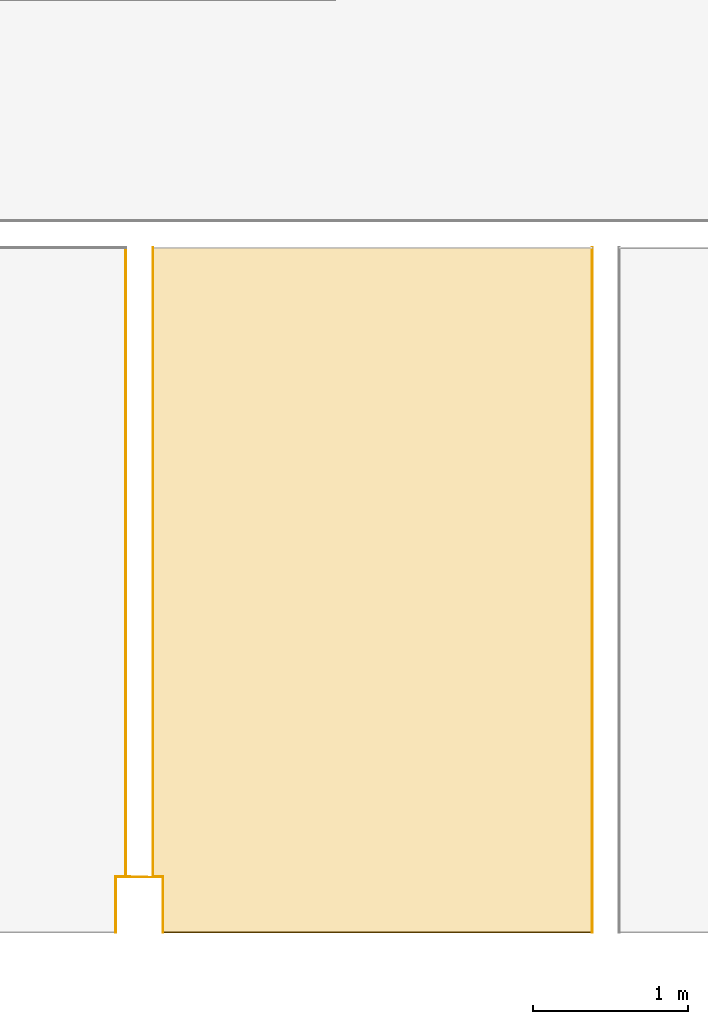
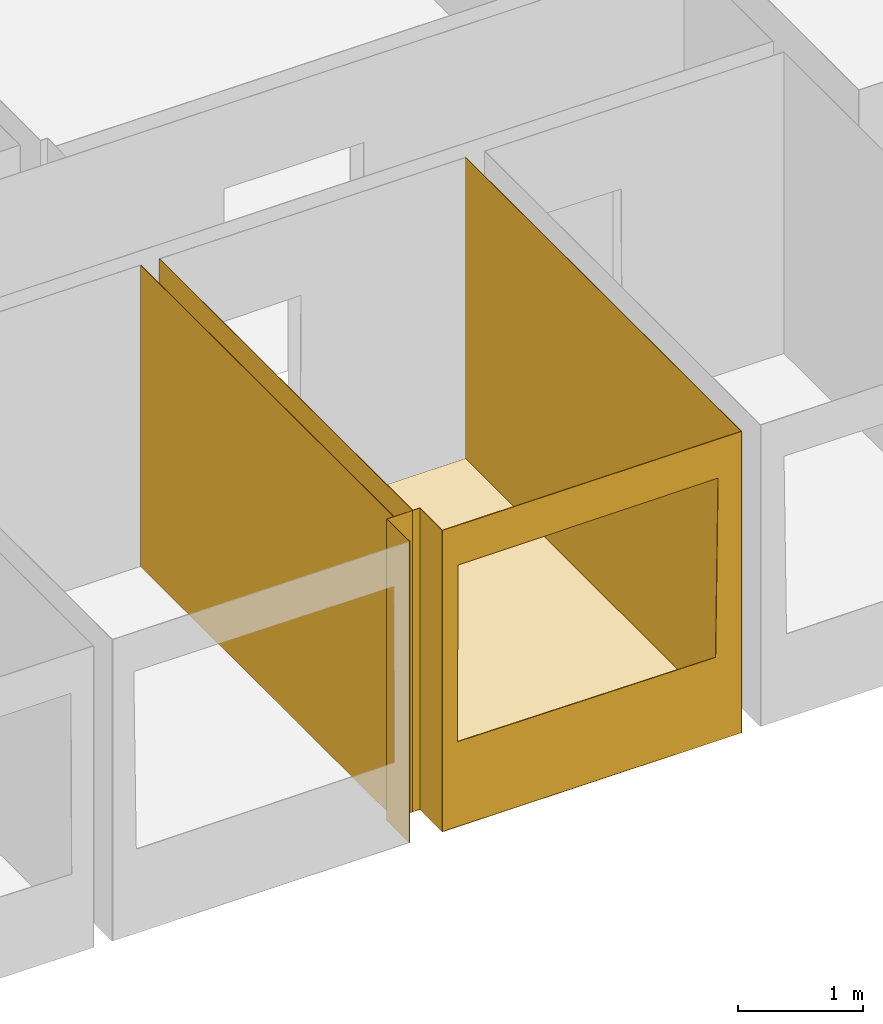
# One storey, part 16 of 33: 9 coverings, 1 opening.
"""IFC2X3 building model written with IfcOpenShell, lengths in millimetres."""

from ifc_helpers import new_model, entity, si_unit, converted_unit, derived_unit, money_unit, direction, frame, origin_with_axes, place, context, subcontext, project, spatial, polyline, outline, extrude, material, type_object, element, save


model = new_model("IFC2X3")

# Units and contexts
model_context = context("Model", 3, precision=0.01, world=origin_with_axes(), true_north=direction((0.0, 1.0)))
body_context = subcontext(model_context, "Body", "Model", "MODEL_VIEW")
ifc_project = project(units=[si_unit("LENGTHUNIT", "METRE", prefix="MILLI"), si_unit("AREAUNIT", "SQUARE_METRE"), si_unit("VOLUMEUNIT", "CUBIC_METRE"), converted_unit("PLANEANGLEUNIT", "DEGREE", entity("IfcPlaneAngleMeasure", 0.0174532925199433), si_unit("PLANEANGLEUNIT", "RADIAN"), dimensions=[0, 0, 0, 0, 0, 0, 0]), money_unit("EUR"), converted_unit("TIMEUNIT", "Year", entity("IfcTimeMeasure", 31556926.0), si_unit("TIMEUNIT", "SECOND"), dimensions=[0, 0, 1, 0, 0, 0, 0]), si_unit("MASSUNIT", "GRAM", prefix="KILO"), si_unit("THERMODYNAMICTEMPERATUREUNIT", "DEGREE_CELSIUS"), si_unit("LUMINOUSINTENSITYUNIT", "LUMEN"), si_unit("ENERGYUNIT", "JOULE", prefix="MEGA"), derived_unit("THERMALCONDUCTANCEUNIT", [(si_unit("POWERUNIT", "WATT"), 1), (si_unit("LENGTHUNIT", "METRE"), -1), (si_unit("THERMODYNAMICTEMPERATUREUNIT", "KELVIN"), -1)]), derived_unit("SPECIFICHEATCAPACITYUNIT", [(si_unit("ENERGYUNIT", "JOULE"), 1), (si_unit("MASSUNIT", "GRAM", prefix="KILO"), -1), (si_unit("THERMODYNAMICTEMPERATUREUNIT", "KELVIN"), -1)]), derived_unit("MASSDENSITYUNIT", [(si_unit("MASSUNIT", "GRAM", prefix="KILO"), 1), (si_unit("VOLUMEUNIT", "CUBIC_METRE"), -1)])], contexts=[model_context])

# Site, building, storey
site_placement = place(None, origin_with_axes())
site = spatial("IfcSite", under=ifc_project, at=site_placement, Name="Paldiski mnt 245/1, Tallinn, Harjumaa", CompositionType="COMPLEX")
building_placement = place(site_placement, origin_with_axes())
building = spatial("IfcBuilding", under=site, at=building_placement, Name="RKAS Hoone üldnimetus (kasutust iseloomustav) -> IFC Project Manager -> SOLIBRI", CompositionType="ELEMENT")
storey_placement = place(building_placement, origin_with_axes())
storey = spatial("IfcBuildingStorey", under=building, at=storey_placement, Name="Esimene korrus", CompositionType="ELEMENT", Elevation=0.0)

# Coverings
ifc_material_1 = material(Name="SA- Värv SM5(valge)")
covering_type_1 = type_object("IfcCoveringType", Name="SA- Värv SM5(valge) 5", PredefinedType="CLADDING")
covering_1_placement = place(storey_placement, frame((-29375.00006334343, -12150.08407564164, 0.0), z_axis=(0.0, 0.0, 1.0), x_axis=(1.558196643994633e-08, 1.0, 0.0)))
element("IfcCovering", 1, at=covering_1_placement, inside=storey, type_object=covering_type_1, material=ifc_material_1, Name="SM5", PredefinedType="CLADDING", context=body_context, shape_type="SweptSolid", body=[
    extrude(outline(polyline([(4.999988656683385, -5.000000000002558), (4065.084075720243, -4.999999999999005), (4065.084075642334, 0.0), (4.99998857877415, 0.0), (4.999988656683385, -5.000000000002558)])), origin_with_axes(), (0.0, 0.0, 1.0), 2950.0),
])
covering_2_placement = place(storey_placement, frame((-29310.00000000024, -12510.08408706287, 0.0), z_axis=(0.0, 0.0, 1.0), x_axis=(0.0, 1.0, 0.0)))
element("IfcCovering", 2, at=covering_2_placement, inside=storey, type_object=covering_type_1, material=ifc_material_1, Name="SM5", PredefinedType="CLADDING", context=body_context, shape_type="SweptSolid", body=[
    extrude(outline(polyline([(-0.0002140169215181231, -4.999999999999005), (365.0000000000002, -4.999999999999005), (359.9999999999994, 0.0), (-0.0002140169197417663, 0.0), (-0.0002140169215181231, -4.999999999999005)])), origin_with_axes(), (0.0, 0.0, 1.0), 2950.0),
])

# Covering, opening
covering_3_placement = place(storey_placement, frame((-26535.00000000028, -12510.08430107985, 0.0), z_axis=(0.0, 0.0, 1.0), x_axis=(-0.999999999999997, 7.712325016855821e-08, 0.0)))
covering_3 = element("IfcCovering", 3, at=covering_3_placement, inside=storey, type_object=covering_type_1, material=ifc_material_1, Name="SM5", PredefinedType="CLADDING", context=body_context, shape_type="SweptSolid", body=[
    extrude(outline(polyline([(0.0, -5.000000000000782), (2775.000000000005, -5.000000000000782), (2775.000000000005, 0.0), (0.0, 0.0), (0.0, -5.000000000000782)])), origin_with_axes(), (0.0, 0.0, 1.0), 2950.0),
])
opening_placement = place(covering_3_placement, frame((-26534.99903518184, -12510.08634754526, 0.0), z_axis=(0.0, 0.0, 1.0), x_axis=(-0.999999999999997, -7.712325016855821e-08, 0.0)))
element("IfcOpeningElement", 4, at=opening_placement, cuts=covering_3, Name="AVA", ObjectType="OPENING", context=body_context, shape_type="SweptSolid", body=[
    extrude(outline(polyline([(-1183.849743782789, -873.9799106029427), (1206.871673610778, -862.5606113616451), (1202.082862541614, 864.359314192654), (-1206.871673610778, 873.9799106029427), (-1183.849743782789, -873.9799106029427)])), frame((-27961.67675329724, -12515.08451509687, 1695.640685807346), z_axis=(7.712325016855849e-08, 0.999999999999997, 0.0), x_axis=(-0.999999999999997, 7.712325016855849e-08, 0.0)), (0.0, 0.0, 1.0), 15.00064205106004),
])

# Coverings
covering_4_placement = place(storey_placement, frame((-26535.00000000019, -8084.999999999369, 0.0), z_axis=(0.0, 0.0, 1.0), x_axis=(0.0, -1.0, 0.0)))
element("IfcCovering", 5, at=covering_4_placement, inside=storey, type_object=covering_type_1, material=ifc_material_1, Name="SM5", PredefinedType="CLADDING", context=body_context, shape_type="SweptSolid", body=[
    extrude(outline(polyline([(0.0, -4.999999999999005), (4425.084301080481, -4.999999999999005), (4425.084301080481, 0.0), (0.0, 0.0), (0.0, -4.999999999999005)])), origin_with_axes(), (0.0, 0.0, 1.0), 2950.0),
])
covering_5_placement = place(storey_placement, frame((-29310.00000000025, -12150.08408706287, 0.0), z_axis=(0.0, 0.0, 1.0), x_axis=(-1.0, 0.0, 0.0)))
element("IfcCovering", 6, at=covering_5_placement, inside=storey, type_object=covering_type_1, material=ifc_material_1, Name="SM5", PredefinedType="CLADDING", context=body_context, shape_type="SweptSolid", body=[
    extrude(outline(polyline([(-4.999999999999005, -5.000000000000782), (64.99999999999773, -5.000000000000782), (64.99999999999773, 0.0), (0.0, 0.0), (-4.999999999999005, -5.000000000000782)])), origin_with_axes(), (0.0, 0.0, 1.0), 2950.0),
])
covering_6_placement = place(storey_placement, frame((-29610.00000000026, -12510.08408706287, 0.0), z_axis=(0.0, 0.0, 1.0), x_axis=(0.0, 1.0, 0.0)))
element("IfcCovering", 7, at=covering_6_placement, inside=storey, type_object=covering_type_1, material=ifc_material_1, Name="SM5", PredefinedType="CLADDING", context=body_context, shape_type="SweptSolid", body=[
    extrude(outline(polyline([(-0.0002140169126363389, 0.0), (359.9999999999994, 0.0), (365.0000000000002, 4.999999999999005), (-0.0002140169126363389, 4.999999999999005), (-0.0002140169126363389, 0.0)])), origin_with_axes(), (0.0, 0.0, 1.0), 2950.0),
])
covering_7_placement = place(storey_placement, frame((-29610.00000000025, -12150.08408706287, 0.0), z_axis=(0.0, 0.0, 1.0), x_axis=(1.0, 0.0, 0.0)))
element("IfcCovering", 8, at=covering_7_placement, inside=storey, type_object=covering_type_1, material=ifc_material_1, Name="SM5", PredefinedType="CLADDING", context=body_context, shape_type="SweptSolid", body=[
    extrude(outline(polyline([(0.0, 0.0), (234.9999999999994, 0.0), (64.99999999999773, 5.000000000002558), (-4.999999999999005, 5.000000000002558), (0.0, 0.0)])), origin_with_axes(), (0.0, 0.0, 1.0), 2950.0),
])
covering_8_placement = place(storey_placement, frame((-29545.00000000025, -12150.08408706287, 0.0), z_axis=(0.0, 0.0, 1.0), x_axis=(0.0, 1.0, 0.0)))
element("IfcCovering", 9, at=covering_8_placement, inside=storey, type_object=covering_type_1, material=ifc_material_1, Name="SM5", PredefinedType="CLADDING", context=body_context, shape_type="SweptSolid", body=[
    extrude(outline(polyline([(5.000000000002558, 0.0), (4065.084087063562, 0.0), (4065.084087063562, 4.999999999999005), (5.000000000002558, 4.999999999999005), (5.000000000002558, 0.0)])), origin_with_axes(), (0.0, 0.0, 1.0), 2950.0),
])
ifc_material_2 = material(Name="SA- PM-6 vinüül")
covering_type_2 = type_object("IfcCoveringType", Name="SA- PM-6 vinüül 3", PredefinedType="FLOORING")
covering_9_placement = place(storey_placement, frame((-29309.99943551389, -12511.89116076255, 0.0), z_axis=(0.0, 0.0, 1.0), x_axis=(1.0, 0.0, 0.0)))
element("IfcCovering", 10, at=covering_9_placement, inside=storey, type_object=covering_type_2, material=ifc_material_2, Name="PM-6", PredefinedType="FLOORING", context=body_context, shape_type="SweptSolid", body=[
    extrude(outline(polyline([(0.0, 0.0), (2774.99943551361, 1.806859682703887), (2774.999435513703, 4426.891160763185), (-67.90224738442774, 4425.040442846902), (-65.00056448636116, 361.8070736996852), (-0.2361084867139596, 359.9999225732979), (0.0, 0.0)])), origin_with_axes(), (0.0, 0.0, 1.0), 3.0),
])

save(model, "model.ifc")
